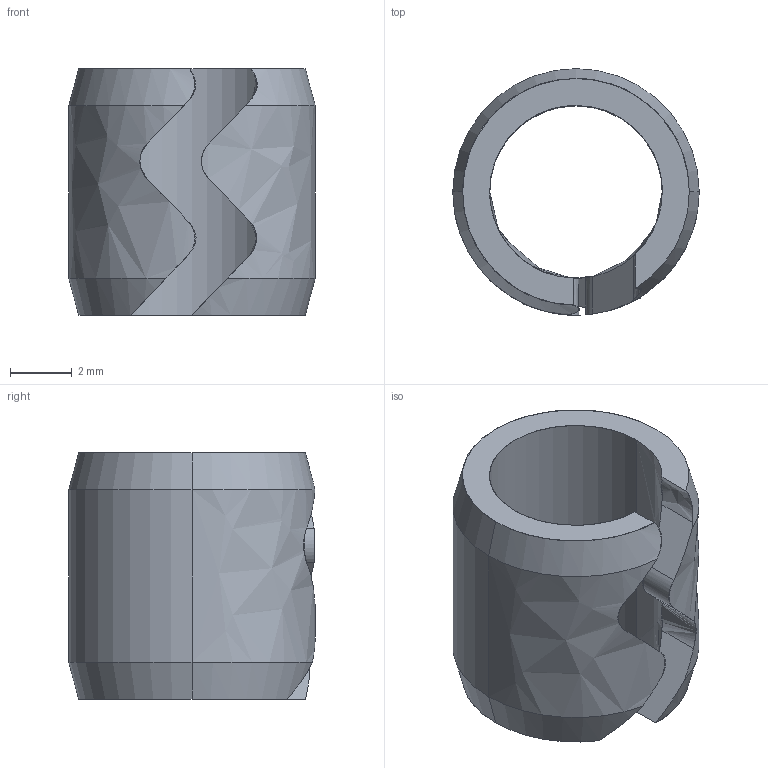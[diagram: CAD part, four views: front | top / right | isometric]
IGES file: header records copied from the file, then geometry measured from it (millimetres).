
Global section: file name: E:\UnigraphicsGraphicData\MISUMI_PRESS-PARTS\IGES\3d_swa8_00407_r00.igs; native system: NX V5.0; preprocessor: UGS NX IGES V5.0; author: MISUMI; date: 20110105.163251; units: millimetre
Bounding box: 8 x 8 x 8 mm (x, y, z)
Surface area: 365.1 mm2 (no closed solid volume)
Topology: 0 solids, 0 shells, 26 faces, 160 edges, 160 vertices
Faces by surface type: bspline 26
